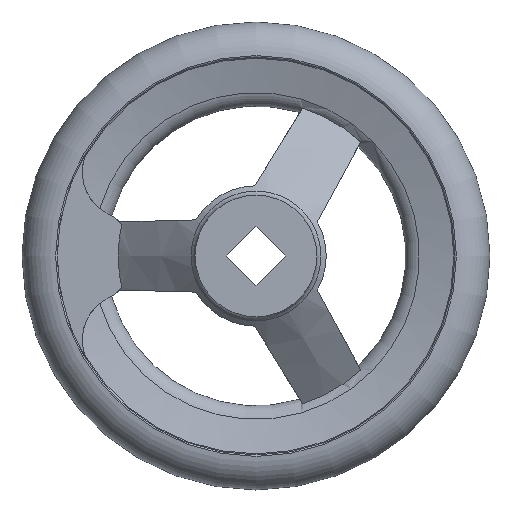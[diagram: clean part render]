
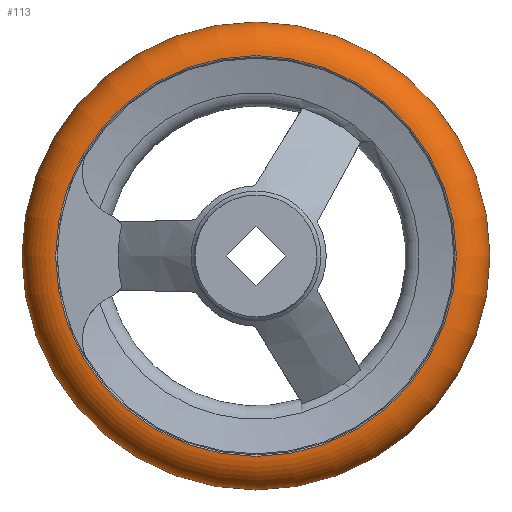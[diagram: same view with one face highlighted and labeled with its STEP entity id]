
A CAD part, left-side view. The second image highlights one B-rep face of the part: STEP entity #113.
In plain terms, the highlighted toroidal (fillet/blend) face has major radius 42.493 mm and minor radius 7.507 mm.
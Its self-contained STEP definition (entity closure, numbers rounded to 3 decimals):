
#113 = ADVANCED_FACE( '', ( #219, #220, #221 ), #222, .T. );
#219 = FACE_BOUND( '', #370, .T. );
#220 = FACE_OUTER_BOUND( '', #371, .T. );
#221 = FACE_OUTER_BOUND( '', #372, .T. );
#222 = TOROIDAL_SURFACE( '', #373, 42.493, 7.507 );
#370 = VERTEX_LOOP( '', #685 );
#371 = EDGE_LOOP( '', ( #686 ) );
#372 = EDGE_LOOP( '', ( #687 ) );
#373 = AXIS2_PLACEMENT_3D( '', #688, #689, #690 );
#685 = VERTEX_POINT( '', #840 );
#686 = ORIENTED_EDGE( '', *, *, #839, .T. );
#687 = ORIENTED_EDGE( '', *, *, #834, .F. );
#688 = CARTESIAN_POINT( '', ( 25.5, 0., 0. ) );
#689 = DIRECTION( '', ( 1., 0., 0. ) );
#690 = DIRECTION( '', ( 0., 1., 0. ) );
#834 = EDGE_CURVE( '', #1010, #1010, #1011, .T. );
#839 = EDGE_CURVE( '', #1019, #1019, #1020, .T. );
#840 = CARTESIAN_POINT( '', ( 25.5, 50., 0. ) );
#1010 = VERTEX_POINT( '', #1558 );
#1011 = CIRCLE( '', #1559, 42.813 );
#1019 = VERTEX_POINT( '', #1567 );
#1020 = CIRCLE( '', #1568, 42.813 );
#1558 = CARTESIAN_POINT( '', ( 33., 42.813, 0. ) );
#1559 = AXIS2_PLACEMENT_3D( '', #1717, #1718, #1719 );
#1567 = CARTESIAN_POINT( '', ( 18., 42.813, 0. ) );
#1568 = AXIS2_PLACEMENT_3D( '', #1732, #1733, #1734 );
#1717 = CARTESIAN_POINT( '', ( 33., 0., 0. ) );
#1718 = DIRECTION( '', ( 1., 0., 0. ) );
#1719 = DIRECTION( '', ( 0., 1., 0. ) );
#1732 = CARTESIAN_POINT( '', ( 18., 0., 0. ) );
#1733 = DIRECTION( '', ( 1., 0., 0. ) );
#1734 = DIRECTION( '', ( 0., 1., 0. ) );
